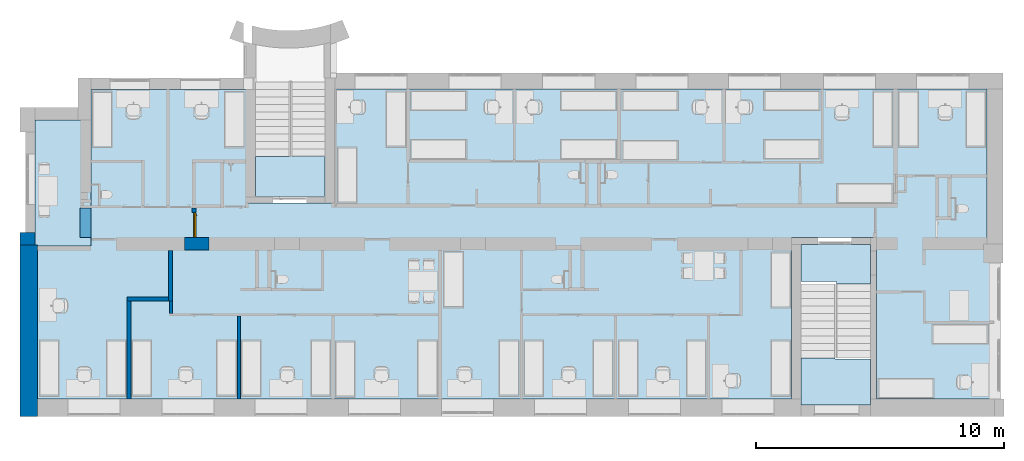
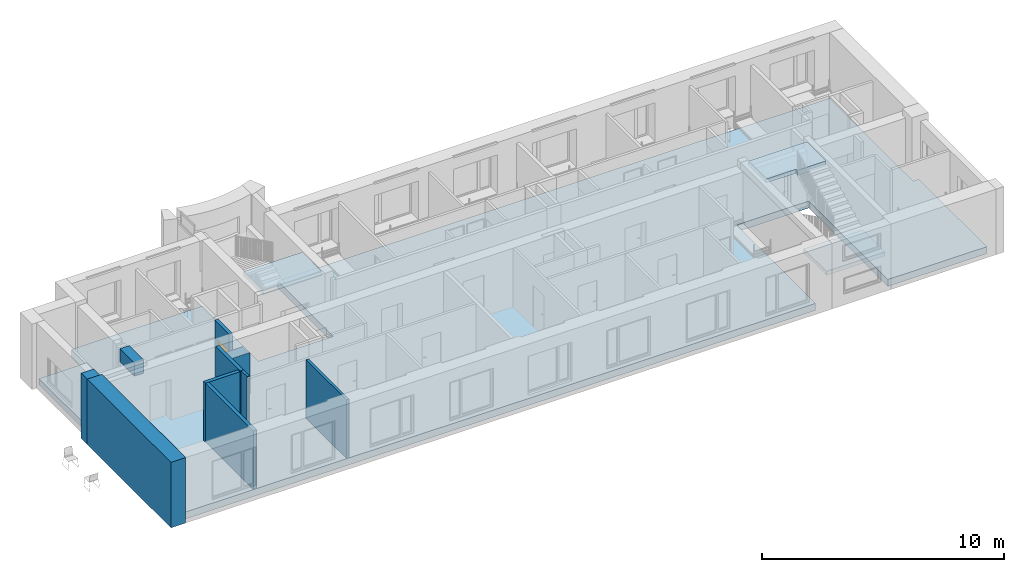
# One storey, part 1 of 48: 10 walls, 5 slabs, 1 door, 3 openings, 3 elements without a shape of their own.
"""IFC2X3 building model written with IfcOpenShell, lengths in millimetres."""

from ifc_helpers import new_model, entity, si_unit, converted_unit, derived_unit, direction, frame, frame_2d, origin, place, context, subcontext, project, spatial, polyline, rectangle, outline, extrude, faceted_brep, source, transform, mapped, material, material_list, layer, layer_set, layer_usage, type_object, type_shapes, element, fill, aggregate, save


model = new_model("IFC2X3")

# Units and contexts
model_context = context("Model", 3, precision=0.01, world=origin(), true_north=direction((6.12303176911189e-17, 1.0)))
body_context = subcontext(model_context, "Body", "Model", "MODEL_VIEW")
ifc_project = project(units=[si_unit("LENGTHUNIT", "METRE", prefix="MILLI"), si_unit("AREAUNIT", "SQUARE_METRE"), si_unit("VOLUMEUNIT", "CUBIC_METRE"), converted_unit("PLANEANGLEUNIT", "DEGREE", entity("IfcRatioMeasure", 0.0174532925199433), si_unit("PLANEANGLEUNIT", "RADIAN"), dimensions=[0, 0, 0, 0, 0, 0, 0]), si_unit("MASSUNIT", "GRAM", prefix="KILO"), derived_unit("MASSDENSITYUNIT", [(si_unit("MASSUNIT", "GRAM", prefix="KILO"), 1), (si_unit("LENGTHUNIT", "METRE"), -3)]), si_unit("TIMEUNIT", "SECOND"), si_unit("FREQUENCYUNIT", "HERTZ"), si_unit("THERMODYNAMICTEMPERATUREUNIT", "DEGREE_CELSIUS"), derived_unit("THERMALTRANSMITTANCEUNIT", [(si_unit("MASSUNIT", "GRAM", prefix="KILO"), 1), (si_unit("THERMODYNAMICTEMPERATUREUNIT", "KELVIN"), -1), (si_unit("TIMEUNIT", "SECOND"), -3)]), derived_unit("VOLUMETRICFLOWRATEUNIT", [(si_unit("LENGTHUNIT", "METRE"), 3), (si_unit("TIMEUNIT", "SECOND"), -1)]), si_unit("ELECTRICCURRENTUNIT", "AMPERE"), si_unit("ELECTRICVOLTAGEUNIT", "VOLT"), si_unit("POWERUNIT", "WATT"), si_unit("FORCEUNIT", "NEWTON", prefix="KILO"), si_unit("ILLUMINANCEUNIT", "LUX"), si_unit("LUMINOUSFLUXUNIT", "LUMEN"), si_unit("LUMINOUSINTENSITYUNIT", "CANDELA"), derived_unit("USERDEFINED", [(si_unit("MASSUNIT", "GRAM", prefix="KILO"), -1), (si_unit("LENGTHUNIT", "METRE"), -2), (si_unit("TIMEUNIT", "SECOND"), 3), (si_unit("LUMINOUSFLUXUNIT", "LUMEN"), 1)]), derived_unit("LINEARVELOCITYUNIT", [(si_unit("LENGTHUNIT", "METRE"), 1), (si_unit("TIMEUNIT", "SECOND"), -1)]), si_unit("PRESSUREUNIT", "PASCAL"), derived_unit("USERDEFINED", [(si_unit("LENGTHUNIT", "METRE"), -2), (si_unit("MASSUNIT", "GRAM", prefix="KILO"), 1), (si_unit("TIMEUNIT", "SECOND"), -2)]), derived_unit("LINEARFORCEUNIT", [(si_unit("MASSUNIT", "GRAM", prefix="KILO"), 1), (si_unit("LENGTHUNIT", "METRE"), 1), (si_unit("TIMEUNIT", "SECOND"), -2), (si_unit("LENGTHUNIT", "METRE"), -1)]), derived_unit("PLANARFORCEUNIT", [(si_unit("MASSUNIT", "GRAM", prefix="KILO"), 1), (si_unit("LENGTHUNIT", "METRE"), 1), (si_unit("TIMEUNIT", "SECOND"), -2), (si_unit("LENGTHUNIT", "METRE"), -2)])], contexts=[model_context])

# Site, building, storey
site_placement = place(None, origin())
site = spatial("IfcSite", under=ifc_project, at=site_placement, Name="Default", CompositionType="ELEMENT")
building_placement = place(site_placement, origin())
building = spatial("IfcBuilding", under=site, at=building_placement, Name="SMA ARH", CompositionType="ELEMENT")
storey_placement = place(building_placement, frame((0.0, 0.0, 3300.0)))
storey = spatial("IfcBuildingStorey", under=building, at=storey_placement, Name="2 Korrus", CompositionType="ELEMENT", Elevation=3299.99999999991)

# Slab
ifc_material_1 = material(Name="EST. Betoon. Armeeritud. Kohtvalu")
ifc_layer_1 = layer(ifc_material_1, 60.0)
ifc_material_2 = material(Name="EST. Soojustus. Mineraalvill. Default")
ifc_layer_2 = layer(ifc_material_2, 30.0)
ifc_material_3 = material(Name="EST. Puistematerjal. Kergkruus")
ifc_layer_3 = layer(ifc_material_3, 40.0)
ifc_material_4 = material(Name="EST. Betoon. Armeeritud. Monteeritav(1)")
ifc_layer_4 = layer(ifc_material_4, 220.0)
ifc_layer_set_1 = layer_set([ifc_layer_1, ifc_layer_2, ifc_layer_3, ifc_layer_4], Name="Floor:VL-00_R/B 370mm 2 k")
ifc_layer_usage_1 = layer_usage(ifc_layer_set_1, "AXIS3", "POSITIVE", 0.0)
slab_type_1 = type_object("IfcSlabType", Name="Floor:VL-00_R/B 370mm 2 k", PredefinedType="FLOOR", material=ifc_layer_set_1)
slab_1_placement = place(storey_placement, origin())
element("IfcSlab", 1, at=slab_1_placement, inside=storey, type_object=slab_type_1, material=ifc_layer_usage_1, Name="Floor:VL-00_R/B 370mm 2 k", ObjectType="Floor:VL-00_R/B 370mm 2 k", PredefinedType="FLOOR", context=body_context, shape_type="SweptSolid", body=[
    extrude(outline(polyline([(-6402.02538036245, -20474.3626248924), (-222.025380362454, -20474.3626248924), (-222.025380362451, -18309.3626248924), (6094.17766253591, -18309.3626248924), (6094.17766253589, -12044.3626248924), (1502.97461963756, -12044.3626248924), (1502.97461963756, -8474.36262489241), (6097.97461963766, -8474.36262489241), (6097.97461963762, 17840.6373751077), (-787.025380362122, 17840.6373751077), (-787.025380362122, 18115.5383742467), (-6402.02538036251, 18115.5383742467), (-6402.02538036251, 13390.6373751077), (117.974619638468, 13390.6373751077), (117.974619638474, 9955.63737510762), (-6402.0253803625, 9955.63737510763), (-6402.02538036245, -20474.3626248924)])), frame((20474.3626248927, 6402.02538036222, -10.0), z_axis=(0.0, 0.0, -1.0), x_axis=(0.0, 1.0, 0.0)), (0.0, 0.0, 1.0), 350.0),
])

# Stair, slab
stair_1_placement = place(storey_placement, origin())
stair_1 = element("IfcStair", 2, at=stair_1_placement, inside=storey, Name="Cast-In-Place Stair:Stair", ObjectType="Cast-In-Place Stair:Cast-In-Place Stair", ShapeType="STRAIGHT_RUN_STAIR")
slab_type_2 = type_object("IfcSlabType", Name="Monolithic Landing:300 mm Thickness", PredefinedType="LANDING")
slab_2_placement = place(stair_1_placement, frame((30810.0, -230.0, 0.0)))
slab_2 = element("IfcSlab", 3, at=slab_2_placement, type_object=slab_type_2, Name="Cast-In-Place Stair:Stair:915214 Landing 1", ObjectType="Monolithic Landing:300 mm Thickness", PredefinedType="LANDING", context=body_context, shape_type="Brep", body=[
    faceted_brep([(1375.0, 1880.0, 1610.0), (0.0, 1880.0, 1610.0), (0.0, 1756.39320225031, 1610.0), (0.0, 0.0, 1610.0), (2800.0, 0.0, 1610.0), (2800.0, 1840.0, 1610.0), (1375.0, 1840.0, 1610.0), (2800.0, 0.0, 1410.0), (2800.0, 1840.0, 1410.0), (0.0, 1880.0, 1460.0), (0.0, 1880.0, 1348.19660112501), (0.0, 1756.39320225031, 1410.0), (0.0, 0.0, 1410.0), (1375.0, 1756.39320225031, 1410.0), (1375.0, 1840.0, 1410.0), (1375.0, 1880.0, 1460.0), (1375.0, 1880.0, 1348.19660112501)], [[[0, 1, 2, 3, 4, 5, 6]], [[5, 4, 7, 8]], [[1, 9, 10, 11, 12, 3, 2]], [[11, 13, 14, 8, 7, 12]], [[1, 0, 15, 16, 10, 9]], [[16, 13, 11, 10]], [[4, 3, 12, 7]], [[6, 5, 8, 14]], [[0, 6, 14, 13, 16, 15]]]),
])
aggregate(stair_1, [slab_2])

stair_2_placement = place(storey_placement, origin())
stair_2 = element("IfcStair", 4, at=stair_2_placement, inside=storey, Name="Cast-In-Place Stair:Stair", ObjectType="Cast-In-Place Stair:Cast-In-Place Stair", ShapeType="STRAIGHT_RUN_STAIR")
slab_type_3 = type_object("IfcSlabType", Name="Monolithic Landing:300 mm Thickness", PredefinedType="LANDING")
slab_3_placement = place(stair_2_placement, frame((30815.0, 4650.0, 0.0)))
slab_3 = element("IfcSlab", 5, at=slab_3_placement, type_object=slab_type_3, Name="Cast-In-Place Stair:Stair:1055754 Landing 1", ObjectType="Monolithic Landing:300 mm Thickness", PredefinedType="LANDING", context=body_context, shape_type="Brep", body=[
    faceted_brep([(1425.0, 0.0, 3240.0), (2800.0, 0.0, 3240.0), (2800.0, 122.259200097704, 3240.0), (2800.0, 1590.0, 3240.0), (0.0, 1590.0, 3240.0), (0.0, 100.0, 3240.0), (1425.0, 100.0, 3240.0), (0.0, 1590.0, 3040.0), (0.0, 100.0, 3040.0), (2800.0, 0.0, 3090.90909090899), (2800.0, 0.0, 2979.2408823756), (2800.0, 122.259200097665, 3040.0), (2800.0, 1590.0, 3040.0), (1425.0, 122.259200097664, 3040.0), (1425.0, 100.0, 3040.0), (1425.0, 0.0, 3090.90909090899), (1425.0, 0.0, 2979.24088237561)], [[[0, 1, 2, 3, 4, 5, 6]], [[5, 4, 7, 8]], [[1, 9, 10, 11, 12, 3, 2]], [[4, 3, 12, 7]], [[11, 13, 14, 8, 7, 12]], [[1, 0, 15, 16, 10, 9]], [[16, 13, 11, 10]], [[6, 5, 8, 14]], [[0, 6, 14, 13, 16, 15]]]),
])
aggregate(stair_2, [slab_3])

stair_3_placement = place(storey_placement, origin())
stair_3 = element("IfcStair", 6, at=stair_3_placement, inside=storey, Name="Cast-In-Place Stair:Stair", ObjectType="Cast-In-Place Stair:Cast-In-Place Stair", ShapeType="STRAIGHT_RUN_STAIR")
slab_type_4 = type_object("IfcSlabType", Name="Monolithic Landing:300 mm Thickness", PredefinedType="LANDING")
slab_4_placement = place(stair_3_placement, frame((8805.0, 8175.0, 0.0)))
slab_4 = element("IfcSlab", 7, at=slab_4_placement, type_object=slab_type_4, Name="Cast-In-Place Stair:Stair:1077753 Landing 1", ObjectType="Monolithic Landing:300 mm Thickness", PredefinedType="LANDING", context=body_context, shape_type="Brep", body=[
    faceted_brep([(1375.0, 1612.80572404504, 3230.0), (0.0, 1612.80572404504, 3230.0), (0.0, 1489.19892629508, 3230.0), (0.0, 0.0, 3230.0), (2800.0, 0.0, 3230.0), (2800.0, 1612.80572404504, 3230.0), (2800.0, 0.0, 3030.0), (2800.0, 1612.80572404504, 3030.0), (0.0, 1612.80572404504, 3080.0), (0.0, 1612.80572404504, 2968.19660112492), (0.0, 1489.19892629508, 3030.0), (0.0, 0.0, 3030.0), (1375.0, 1489.19892629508, 3030.0), (1375.0, 1612.80572404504, 3030.0), (1375.0, 1612.80572404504, 2968.19660112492)], [[[0, 1, 2, 3, 4, 5]], [[5, 4, 6, 7]], [[1, 8, 9, 10, 11, 3, 2]], [[4, 3, 11, 6]], [[10, 12, 13, 7, 6, 11]], [[1, 0, 13, 14, 9, 8]], [[0, 5, 7, 13]], [[12, 10, 9, 14]], [[13, 12, 14]]]),
])
aggregate(stair_3, [slab_4])

# Slab
ifc_layer_5 = layer(ifc_material_1, 60.0)
ifc_layer_6 = layer(ifc_material_2, 30.0)
ifc_layer_7 = layer(ifc_material_4, 220.0)
ifc_layer_set_2 = layer_set([ifc_layer_5, ifc_layer_6, ifc_layer_7], Name="Floor:VL-00_R/B 370mm 2 k 3")
ifc_layer_usage_2 = layer_usage(ifc_layer_set_2, "AXIS3", "POSITIVE", 0.0)
slab_type_5 = type_object("IfcSlabType", Name="Floor:VL-00_R/B 370mm 2 k 3", PredefinedType="FLOOR", material=ifc_layer_set_2)
slab_5_placement = place(storey_placement, origin())
element("IfcSlab", 8, at=slab_5_placement, inside=storey, type_object=slab_type_5, material=ifc_layer_usage_2, Name="Floor:VL-00_R/B 370mm 2 k 3", ObjectType="Floor:VL-00_R/B 370mm 2 k 3", PredefinedType="FLOOR", context=body_context, shape_type="SweptSolid", body=[
    extrude(rectangle(XDim=5069.99999999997, YDim=2265.0, at=frame_2d((-2.04636307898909e-12, 2.04636307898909e-12), x_axis=(1.0, 0.0))), frame((1032.50000000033, 8715.0, 70.0), z_axis=(0.0, 0.0, -1.0), x_axis=(0.0, 1.0, 0.0)), (0.0, 0.0, 1.0), 310.0),
])

# Walls
ifc_material_5 = material(Name="_ol.olev sein")
ifc_layer_8 = layer(ifc_material_5, 700.0)
ifc_layer_set_3 = layer_set([ifc_layer_8], Name="Basic Wall:Generic - 700mm")
ifc_layer_usage_3 = layer_usage(ifc_layer_set_3, "AXIS2", "POSITIVE", -350.0)
wall_type_1 = type_object("IfcWallType", Name="Basic Wall:Generic - 700mm", PredefinedType="STANDARD", material=ifc_layer_set_3)
wall_1_placement = place(storey_placement, frame((-350.0, 6225.0, 0.0), z_axis=(0.0, 0.0, 1.0), x_axis=(0.0, -1.0, 0.0)))
element("IfcWallStandardCase", 9, at=wall_1_placement, inside=storey, type_object=wall_type_1, material=ifc_layer_usage_3, Name="Basic Wall:Generic - 700mm", ObjectType="Basic Wall:Generic - 700mm", context=body_context, shape_type="SweptSolid", body=[
    extrude(rectangle(XDim=6925.0, YDim=700.0, at=frame_2d((3462.5, 0.0), x_axis=(-1.0, 0.0))), origin(), (0.0, 0.0, 1.0), 3299.99999999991),
])
ifc_layer_9 = layer(ifc_material_5, 600.0)
ifc_layer_set_4 = layer_set([ifc_layer_9], Name="Basic Wall:Generic - 600mm")
ifc_layer_usage_4 = layer_usage(ifc_layer_set_4, "AXIS2", "NEGATIVE", 300.0)
wall_type_2 = type_object("IfcWallType", Name="Basic Wall:Generic - 600mm", PredefinedType="STANDARD", material=ifc_layer_set_4)
wall_2_placement = place(storey_placement, frame((-400.0, 6225.0, 0.0), z_axis=(0.0, 0.0, 1.0), x_axis=(0.0, 1.0, 0.0)))
element("IfcWallStandardCase", 10, at=wall_2_placement, inside=storey, type_object=wall_type_2, material=ifc_layer_usage_4, Name="Basic Wall:Generic - 600mm", ObjectType="Basic Wall:Generic - 600mm", context=body_context, shape_type="SweptSolid", body=[
    extrude(rectangle(XDim=495.000000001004, YDim=600.0, at=frame_2d((247.500000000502, 5.6843418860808e-14), x_axis=(-1.0, 0.0))), origin(), (0.0, 0.0, 1.0), 3299.99999999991),
])
ifc_layer_10 = layer(ifc_material_5, 450.0)
ifc_layer_set_5 = layer_set([ifc_layer_10], Name="Basic Wall:Generic - 450mm")
ifc_layer_usage_5 = layer_usage(ifc_layer_set_5, "AXIS2", "NEGATIVE", 225.0)
wall_type_3 = type_object("IfcWallType", Name="Basic Wall:Generic - 450mm", PredefinedType="STANDARD", material=ifc_layer_set_5)
wall_3_placement = place(storey_placement, frame((1941.80783715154, 6520.0, 2428.39432608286), z_axis=(0.0, 0.0, 1.0), x_axis=(0.0, 1.0, 0.0)))
element("IfcWallStandardCase", 11, at=wall_3_placement, inside=storey, type_object=wall_type_3, material=ifc_layer_usage_5, Name="Basic Wall:Generic - 450mm", ObjectType="Basic Wall:Generic - 450mm", context=body_context, shape_type="SweptSolid", body=[
    extrude(rectangle(XDim=1180.00000000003, YDim=450.0, at=frame_2d((590.000000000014, 1.4210854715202e-14), x_axis=(-1.0, 0.0))), origin(), (0.0, 0.0, 1.0), 661.605673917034),
])
ifc_material_6 = material(Name="EST. Ehitusplaat. Kipsplaat")
ifc_layer_11 = layer(ifc_material_6, 12.5)
ifc_layer_12 = layer(ifc_material_6, 12.5)
ifc_layer_13 = layer(ifc_material_2, 50.0)
ifc_layer_14 = layer(ifc_material_6, 12.5)
ifc_layer_15 = layer(ifc_material_2, 50.0)
ifc_layer_16 = layer(ifc_material_6, 12.5)
ifc_layer_17 = layer(ifc_material_6, 12.5)
ifc_layer_set_6 = layer_set([ifc_layer_11, ifc_layer_12, ifc_layer_13, ifc_layer_14, ifc_layer_15, ifc_layer_16, ifc_layer_17], Name="Basic Wall:SS-04_Kips, 50+50 mm metallkarkass 2")
ifc_layer_usage_6 = layer_usage(ifc_layer_set_6, "AXIS2", "NEGATIVE", 81.25)
wall_type_4 = type_object("IfcWallType", Name="Basic Wall:SS-04_Kips, 50+50 mm metallkarkass 2", PredefinedType="STANDARD", material=ifc_layer_set_6)
wall_4_placement = place(storey_placement, frame((3704.50000000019, 0.0, 0.0), z_axis=(0.0, 0.0, 1.0), x_axis=(0.0, 1.0, 0.0)))
element("IfcWallStandardCase", 12, at=wall_4_placement, inside=storey, type_object=wall_type_4, material=ifc_layer_usage_6, Name="Basic Wall:SS-04_Kips, 50+50 mm metallkarkass 2", ObjectType="Basic Wall:SS-04_Kips, 50+50 mm metallkarkass 2", context=body_context, shape_type="SweptSolid", body=[
    extrude(rectangle(XDim=3960.00000000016, YDim=162.5, at=frame_2d((1980.00000000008, 1.63424829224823e-13), x_axis=(-1.0, 0.0))), origin(), (0.0, 0.0, 1.0), 2949.99999999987),
])
ifc_layer_usage_7 = layer_usage(ifc_layer_set_6, "AXIS2", "NEGATIVE", 81.25)
wall_5_placement = place(storey_placement, frame((5363.75000000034, 6000.0, 0.0), z_axis=(0.0, 0.0, 1.0), x_axis=(0.0, -1.0, 0.0)))
element("IfcWallStandardCase", 13, at=wall_5_placement, inside=storey, type_object=wall_type_4, material=ifc_layer_usage_7, Name="Basic Wall:SS-04_Kips, 50+50 mm metallkarkass 2", ObjectType="Basic Wall:SS-04_Kips, 50+50 mm metallkarkass 2", context=body_context, shape_type="SweptSolid", body=[
    extrude(rectangle(XDim=2040.00000000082, YDim=162.5, at=frame_2d((1020.00000000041, 1.13686837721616e-13), x_axis=(-1.0, 0.0))), origin(), (0.0, 0.0, 1.0), 2989.99999999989),
])

# Wall, openings, door
ifc_layer_usage_8 = layer_usage(ifc_layer_set_6, "AXIS2", "NEGATIVE", 81.25)
wall_6_placement = place(storey_placement, frame((6316.57130046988, 6520.0, 0.0), z_axis=(0.0, 0.0, 1.0), x_axis=(0.0, 1.0, 0.0)))
wall_6 = element("IfcWallStandardCase", 14, at=wall_6_placement, inside=storey, type_object=wall_type_4, material=ifc_layer_usage_8, Name="Basic Wall:SS-04_Kips, 50+50 mm metallkarkass 2", ObjectType="Basic Wall:SS-04_Kips, 50+50 mm metallkarkass 2", context=body_context, shape_type="SweptSolid", body=[
    extrude(rectangle(XDim=1180.00000000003, YDim=162.5, at=frame_2d((590.000000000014, -8.5265128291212e-14), x_axis=(-1.0, 0.0))), origin(), (0.0, 0.0, 1.0), 2949.99999999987),
])
opening_1_placement = place(wall_6_placement, origin())
element("IfcOpeningElement", 15, at=opening_1_placement, cuts=wall_6, Name="Basic Wall:SS-04_Kips, 50+50 mm metallkarkass 2", ObjectType="Opening", context=body_context, shape_type="SweptSolid", body=[
    extrude(rectangle(XDim=2099.99999999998, YDim=116.0, at=frame_2d((0.0, 0.0), x_axis=(0.0, 1.0))), frame((1238.0, 81.25, 1050.0), z_axis=(0.0, 1.0, 0.0), x_axis=(-1.0, 0.0, 0.0)), (0.0, 0.0, 1.0), 900.0),
])
opening_2_placement = place(wall_6_placement, frame((1000.0, 81.2499999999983, 0.0)))
opening_2 = element("IfcOpeningElement", 16, at=opening_2_placement, cuts=wall_6, Name="SMA_D01, 1-poolne:SU-P-04 - 1000x2100 EI-30:1", ObjectType="Opening", context=body_context, shape_type="SweptSolid", body=[
    extrude(rectangle(XDim=2099.99999999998, YDim=1000.0, at=frame_2d((1049.99999999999, 500.0), x_axis=(1.0, 0.0))), frame((0.0, 0.0, 0.0), z_axis=(0.0, -1.0, 0.0), x_axis=(0.0, 0.0, 1.0)), (0.0, 0.0, 1.0), 162.5),
])
ifc_material_7 = material(Name="EST. Metall. Alumiinium. Värvitud. RAL7023 (Concrete grey)")
ifc_material_8 = material(Name="<Unnamed>")
ifc_material_9 = material(Name="EST. Klaas. 3x. Default")
ifc_material_list = material_list([ifc_material_7, ifc_material_8, ifc_material_7, ifc_material_8, ifc_material_9, ifc_material_8, ifc_material_7])
door_style = type_object("IfcDoorStyle", Name="SMA_D01, 1-poolne:SU-P-04 - 1000x2100 EI-30", ConstructionType="NOTDEFINED", OperationType="SINGLE_SWING_RIGHT", ParameterTakesPrecedence=False, Sizeable=False, material=ifc_material_list)
shared_shape = source(origin(), body_context, "Body", "Brep", [
    faceted_brep([(110.0, 72.5000000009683, 1112.5), (110.0, 110.500000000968, 1112.5), (85.0, 110.500000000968, 1112.5), (85.0, 67.5000000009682, 1112.5), (205.0, 67.5000000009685, 1112.5), (205.0, 72.5000000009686, 1112.5), (110.0, 72.5000000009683, 1087.5), (205.0, 72.5000000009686, 1087.5), (205.0, 67.5000000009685, 1087.5), (85.0, 67.5000000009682, 1087.5), (85.0, 110.500000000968, 1087.5), (110.0, 110.500000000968, 1087.5)], [[[0, 1, 2, 3, 4, 5]], [[6, 7, 8, 9, 10, 11]], [[1, 0, 6, 11]], [[2, 1, 11, 10]], [[3, 2, 10, 9]], [[4, 3, 9, 8]], [[5, 4, 8, 7]], [[0, 5, 7, 6]]]),
    faceted_brep([(122.499999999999, 110.500000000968, 1137.5), (122.499999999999, 112.500000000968, 1137.5), (72.4999999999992, 112.500000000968, 1137.5), (72.4999999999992, 110.500000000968, 1137.5), (122.499999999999, 110.500000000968, 1017.5), (72.4999999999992, 110.500000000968, 1017.5), (72.4999999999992, 112.500000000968, 1017.5), (122.499999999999, 112.500000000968, 1017.5)], [[[0, 1, 2, 3]], [[4, 5, 6, 7]], [[1, 0, 4, 7]], [[2, 1, 7, 6]], [[3, 2, 6, 5]], [[0, 3, 5, 4]]]),
    faceted_brep([(110.0, 202.500000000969, 1112.5), (205.0, 202.500000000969, 1112.5), (205.0, 207.500000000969, 1112.5), (85.0, 207.500000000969, 1112.5), (85.0, 164.500000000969, 1112.5), (110.0, 164.500000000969, 1112.5), (110.0, 202.500000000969, 1087.5), (110.0, 164.500000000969, 1087.5), (85.0, 164.500000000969, 1087.5), (85.0, 207.500000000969, 1087.5), (205.0, 207.500000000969, 1087.5), (205.0, 202.500000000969, 1087.5)], [[[0, 1, 2, 3, 4, 5]], [[6, 7, 8, 9, 10, 11]], [[5, 7, 6, 0]], [[4, 8, 7, 5]], [[3, 9, 8, 4]], [[2, 10, 9, 3]], [[1, 11, 10, 2]], [[0, 6, 11, 1]]]),
    faceted_brep([(122.499999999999, 164.500000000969, 1137.5), (72.4999999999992, 164.500000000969, 1137.5), (72.4999999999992, 162.500000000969, 1137.5), (122.499999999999, 162.500000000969, 1137.5), (122.499999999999, 164.500000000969, 1017.5), (122.499999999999, 162.500000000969, 1017.5), (72.4999999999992, 162.500000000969, 1017.5), (72.4999999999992, 164.500000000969, 1017.5)], [[[0, 1, 2, 3]], [[4, 5, 6, 7]], [[3, 5, 4, 0]], [[2, 6, 5, 3]], [[1, 7, 6, 2]], [[0, 4, 7, 1]]]),
    faceted_brep([(950.0, 72.5000000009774, 30.0), (950.0, 72.5000000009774, 0.0), (950.0, 112.500000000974, 0.0), (950.0, 112.500000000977, 20.0), (950.0, 112.500000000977, 30.0), (50.0, 72.5000000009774, 30.0), (50.0, 112.500000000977, 30.0), (50.0, 112.500000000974, 20.0), (50.0, 112.500000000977, 0.0), (50.0, 72.5000000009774, 0.0), (35.0, 112.500000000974, 0.0), (35.0, 162.500000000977, 0.0), (965.0, 162.500000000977, 0.0), (965.0, 112.500000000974, 0.0), (965.0, 162.500000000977, 20.0), (965.0, 112.500000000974, 20.0), (35.0, 162.500000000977, 20.0), (35.0, 112.500000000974, 20.0)], [[[0, 1, 2, 3, 4]], [[5, 6, 7, 8, 9]], [[1, 0, 5, 9]], [[2, 1, 9, 8, 10, 11, 12, 13]], [[6, 4, 3, 7]], [[0, 4, 6, 5]], [[14, 15, 13, 12]], [[16, 11, 10, 17]], [[15, 14, 16, 17, 7, 3]], [[13, 15, 3, 2]], [[14, 12, 11, 16]], [[17, 10, 8, 7]]]),
    faceted_brep([(990.0, 72.500000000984, 0.0), (950.0, 72.5000000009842, 0.0), (950.0, 112.500000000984, 0.0), (965.0, 112.500000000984, 0.0), (965.0, 162.500000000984, 0.0), (990.0, 162.500000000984, 0.0), (990.0, 72.500000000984, 2090.0), (10.0, 72.5000000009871, 2090.0), (10.0, 72.5000000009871, 0.0), (50.0, 72.5000000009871, 0.0), (50.0, 72.5000000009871, 2050.0), (950.0, 72.5000000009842, 2050.0), (950.0, 112.500000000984, 2050.0), (50.0, 112.500000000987, 2050.0), (50.0, 112.500000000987, 0.0), (35.0, 112.500000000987, 0.0), (35.0, 112.500000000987, 2065.0), (965.0, 112.500000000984, 2065.0), (965.0, 162.500000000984, 2065.0), (35.0, 162.500000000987, 2065.0), (35.0, 162.500000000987, 0.0), (10.0, 162.500000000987, 0.0), (10.0, 162.500000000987, 2090.0), (990.0, 162.500000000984, 2090.0)], [[[0, 1, 2, 3, 4, 5]], [[1, 0, 6, 7, 8, 9, 10, 11]], [[2, 1, 11, 12]], [[3, 2, 12, 13, 14, 15, 16, 17]], [[4, 3, 17, 18]], [[5, 4, 18, 19, 20, 21, 22, 23]], [[0, 5, 23, 6]], [[8, 7, 22, 21]], [[9, 8, 21, 20, 15, 14]], [[10, 9, 14, 13]], [[16, 15, 20, 19]], [[11, 10, 13, 12]], [[17, 16, 19, 18]], [[7, 6, 23, 22]]]),
    faceted_brep([(35.0, 112.500000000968, 2065.0), (35.0, 112.500000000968, 20.0), (965.0, 112.500000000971, 20.0), (965.0, 112.500000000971, 2065.0), (35.0, 162.500000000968, 2065.0), (965.0, 162.500000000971, 2065.0), (965.0, 162.500000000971, 20.0), (35.0, 162.500000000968, 20.0)], [[[0, 1, 2, 3]], [[4, 5, 6, 7]], [[1, 0, 4, 7]], [[2, 1, 7, 6]], [[3, 2, 6, 5]], [[0, 3, 5, 4]]]),
])
type_shapes(door_style, [shared_shape])
door_placement = place(opening_2_placement, frame((0.0, 0.0, 0.0), z_axis=(0.0, 0.0, 1.0), x_axis=(-1.0, 0.0, 0.0)))
door = element("IfcDoor", 17, at=door_placement, inside=storey, type_object=door_style, material=ifc_material_7, Name="SMA_D01, 1-poolne:SU-P-04 - 1000x2100 EI-30", ObjectType="SMA_D01, 1-poolne:SU-P-04 - 1000x2100 EI-30", OverallHeight=2099.99999999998, OverallWidth=999.999999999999, context=body_context, shape_type="MappedRepresentation", body=[
    mapped(shared_shape, transform((0.0, 0.0, 0.0), scale=1.0)),
])
fill(opening_2, door)

# Walls
ifc_layer_usage_9 = layer_usage(ifc_layer_set_6, "AXIS2", "NEGATIVE", 81.25)
wall_7_placement = place(storey_placement, frame((5282.50000000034, 4041.24999999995, 0.0), z_axis=(0.0, 0.0, 1.0), x_axis=(-1.0, 0.0, 0.0)))
element("IfcWallStandardCase", 18, at=wall_7_placement, inside=storey, type_object=wall_type_4, material=ifc_layer_usage_9, Name="Basic Wall:SS-04_Kips, 50+50 mm metallkarkass 2", ObjectType="Basic Wall:SS-04_Kips, 50+50 mm metallkarkass 2", context=body_context, shape_type="SweptSolid", body=[
    extrude(rectangle(XDim=1659.25000000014, YDim=162.5, at=frame_2d((829.625000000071, 1.13686837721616e-13), x_axis=(-1.0, 0.0))), origin(), (0.0, 0.0, 1.0), 2949.99999999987),
])
ifc_layer_18 = layer(ifc_material_6, 12.5)
ifc_layer_19 = layer(ifc_material_6, 12.5)
ifc_layer_20 = layer(ifc_material_2, 66.0)
ifc_layer_21 = layer(ifc_material_6, 12.5)
ifc_layer_22 = layer(ifc_material_6, 12.5)
ifc_layer_set_7 = layer_set([ifc_layer_18, ifc_layer_19, ifc_layer_20, ifc_layer_21, ifc_layer_22], Name="Basic Wall:SS-05_Kips, 66mm metallkarkass")
ifc_layer_usage_10 = layer_usage(ifc_layer_set_7, "AXIS2", "NEGATIVE", 58.0)
wall_type_5 = type_object("IfcWallType", Name="Basic Wall:SS-05_Kips, 66mm metallkarkass", PredefinedType="STANDARD", material=ifc_layer_set_7)
wall_8_placement = place(storey_placement, frame((8130.0, 0.0, 0.0), z_axis=(0.0, 0.0, 1.0), x_axis=(0.0, 1.0, 0.0)))
element("IfcWallStandardCase", 19, at=wall_8_placement, inside=storey, type_object=wall_type_5, material=ifc_layer_usage_10, Name="Basic Wall:SS-05_Kips, 66mm metallkarkass", ObjectType="Basic Wall:SS-05_Kips, 66mm metallkarkass", context=body_context, shape_type="SweptSolid", body=[
    extrude(rectangle(XDim=3344.00000000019, YDim=116.0, at=frame_2d((1672.0000000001, 1.4210854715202e-14), x_axis=(-1.0, 0.0))), origin(), (0.0, 0.0, 1.0), 2949.99999999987),
])
ifc_layer_usage_11 = layer_usage(ifc_layer_set_7, "AXIS2", "NEGATIVE", 58.0)
wall_9_placement = place(storey_placement, frame((5387.0, 4041.24999999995, 0.0), z_axis=(0.0, 0.0, 1.0), x_axis=(0.0, -1.0, 0.0)))
element("IfcWallStandardCase", 20, at=wall_9_placement, inside=storey, type_object=wall_type_5, material=ifc_layer_usage_11, Name="Basic Wall:SS-05_Kips, 66mm metallkarkass", ObjectType="Basic Wall:SS-05_Kips, 66mm metallkarkass", context=body_context, shape_type="SweptSolid", body=[
    extrude(rectangle(XDim=499.999999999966, YDim=116.0, at=frame_2d((331.249999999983, 2.0961010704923e-13), x_axis=(-1.0, 0.0))), origin(), (0.0, 0.0, 1.0), 2989.99999999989),
])

# Wall, opening
ifc_material_10 = material(Name="EST. Müüritis. Väikeplokk. Kergkruusplokk")
ifc_layer_23 = layer(ifc_material_10, 510.0)
ifc_layer_set_8 = layer_set([ifc_layer_23], Name="Basic Wall:SS-03_Fibo 510mm kinnilaotav ava")
ifc_layer_usage_12 = layer_usage(ifc_layer_set_8, "AXIS2", "NEGATIVE", 255.0)
wall_type_6 = type_object("IfcWallType", Name="Basic Wall:SS-03_Fibo 510mm kinnilaotav ava", PredefinedType="STANDARD", material=ifc_layer_set_8)
wall_10_placement = place(storey_placement, frame((5930.0, 6265.0, 0.0)))
wall_10 = element("IfcWallStandardCase", 21, at=wall_10_placement, inside=storey, type_object=wall_type_6, material=ifc_layer_usage_12, Name="Basic Wall:SS-03_Fibo 510mm kinnilaotav ava", ObjectType="Basic Wall:SS-03_Fibo 510mm kinnilaotav ava", context=body_context, shape_type="SweptSolid", body=[
    extrude(rectangle(XDim=999.999999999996, YDim=510.000000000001, at=frame_2d((499.999999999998, 0.0), x_axis=(-1.0, 0.0))), origin(), (0.0, 0.0, 1.0), 2099.99999999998),
])
opening_3_placement = place(wall_10_placement, origin())
element("IfcOpeningElement", 22, at=opening_3_placement, cuts=wall_10, Name="Basic Wall:SS-03_Fibo 510mm kinnilaotav ava", ObjectType="Opening", context=body_context, shape_type="SweptSolid", body=[
    extrude(rectangle(XDim=2099.99999999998, YDim=162.5, at=frame_2d((0.0, 0.0), x_axis=(0.0, 1.0))), frame((386.571300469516, 255.0, 1050.0), z_axis=(0.0, 1.0, 0.0), x_axis=(1.0, 0.0, 0.0)), (0.0, 0.0, 1.0), 999.999999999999),
])

save(model, "model.ifc")
